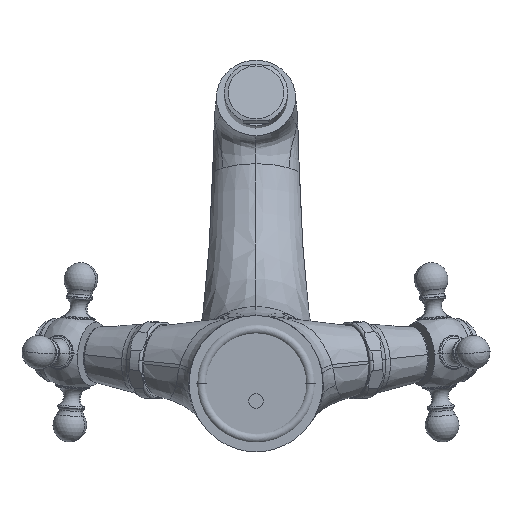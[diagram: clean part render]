
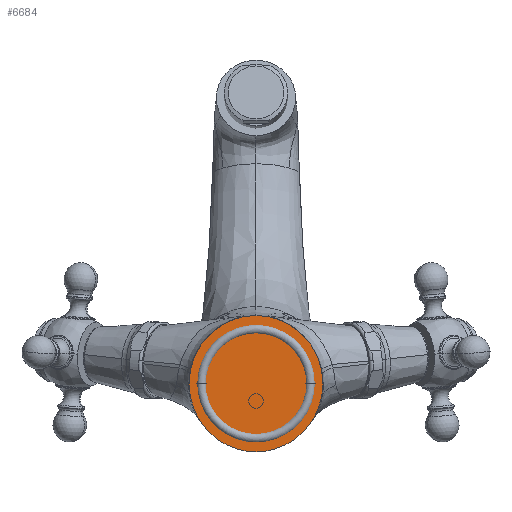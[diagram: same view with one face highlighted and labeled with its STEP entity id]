
A CAD part, front view. The second image highlights one B-rep face of the part: STEP entity #6684.
In plain terms, the highlighted planar face has unit normal (0, -1, 0).
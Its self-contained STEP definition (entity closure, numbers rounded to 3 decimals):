
#755=CARTESIAN_POINT('',(24.797,0.,20.893));
#756=CARTESIAN_POINT('',(24.602,0.,19.861));
#757=CARTESIAN_POINT('',(24.089,0.,17.819));
#758=CARTESIAN_POINT('',(22.958,0.,14.876));
#759=CARTESIAN_POINT('',(21.482,0.,12.097));
#760=CARTESIAN_POINT('',(20.284,0.,10.379));
#761=CARTESIAN_POINT('',(19.636,0.,9.562));
#778=CARTESIAN_POINT('',(0.,0.,0.));
#780=CARTESIAN_POINT('',(19.636,0.,9.562));
#781=CARTESIAN_POINT('',(19.341,0.,9.19));
#782=CARTESIAN_POINT('',(18.732,0.,8.463));
#783=CARTESIAN_POINT('',(17.759,0.,7.427));
#784=CARTESIAN_POINT('',(16.732,0.,6.447));
#785=CARTESIAN_POINT('',(15.293,0.,5.221));
#786=CARTESIAN_POINT('',(13.372,0.,3.845));
#787=CARTESIAN_POINT('',(11.314,0.,2.695));
#788=CARTESIAN_POINT('',(9.6,0.,1.919));
#789=CARTESIAN_POINT('',(7.846,0.,1.242));
#790=CARTESIAN_POINT('',(5.589,0.,0.584));
#791=CARTESIAN_POINT('',(2.812,0.,0.107));
#792=CARTESIAN_POINT('',(0.937,0.,0.));
#793=CARTESIAN_POINT('',(0.,0.,0.));
#883=CARTESIAN_POINT('',(-19.636,0.,9.562));
#884=CARTESIAN_POINT('',(-19.341,0.,9.19));
#885=CARTESIAN_POINT('',(-18.732,0.,8.463));
#886=CARTESIAN_POINT('',(-17.759,0.,7.427));
#887=CARTESIAN_POINT('',(-16.732,0.,6.447));
#888=CARTESIAN_POINT('',(-15.293,0.,5.221));
#889=CARTESIAN_POINT('',(-13.372,0.,3.845));
#890=CARTESIAN_POINT('',(-11.314,0.,2.695));
#891=CARTESIAN_POINT('',(-9.6,0.,1.919));
#892=CARTESIAN_POINT('',(-7.846,0.,1.242));
#893=CARTESIAN_POINT('',(-5.589,0.,0.584));
#894=CARTESIAN_POINT('',(-2.812,0.,0.107));
#895=CARTESIAN_POINT('',(-0.937,0.,0.));
#896=CARTESIAN_POINT('',(0.,0.,0.));
#1032=CARTESIAN_POINT('',(-24.797,0.,20.893));
#1033=CARTESIAN_POINT('',(-24.602,0.,19.861));
#1034=CARTESIAN_POINT('',(-24.089,0.,17.819));
#1035=CARTESIAN_POINT('',(-22.958,0.,14.876));
#1036=CARTESIAN_POINT('',(-21.482,0.,12.097));
#1037=CARTESIAN_POINT('',(-20.284,0.,10.379));
#1038=CARTESIAN_POINT('',(-19.636,0.,9.562));
#1073=CARTESIAN_POINT('',(0.,0.,51.5));
#1074=CARTESIAN_POINT('',(-1.852,0.,51.5));
#1075=CARTESIAN_POINT('',(-5.556,0.,51.082));
#1076=CARTESIAN_POINT('',(-12.609,0.,48.621));
#1077=CARTESIAN_POINT('',(-20.104,0.,42.69));
#1078=CARTESIAN_POINT('',(-25.265,0.,32.339));
#1079=CARTESIAN_POINT('',(-25.496,0.,24.603));
#1080=CARTESIAN_POINT('',(-24.797,0.,20.893));
#1673=CARTESIAN_POINT('',(0.,0.,51.5));
#1674=CARTESIAN_POINT('',(1.852,0.,51.5));
#1675=CARTESIAN_POINT('',(5.556,0.,51.082));
#1676=CARTESIAN_POINT('',(12.609,0.,48.621));
#1677=CARTESIAN_POINT('',(20.104,0.,42.69));
#1678=CARTESIAN_POINT('',(25.265,0.,32.339));
#1679=CARTESIAN_POINT('',(25.496,0.,24.603));
#1680=CARTESIAN_POINT('',(24.797,0.,20.893));
#1682=CARTESIAN_POINT('',(0.,0.,51.5));
#2489=VERTEX_POINT('',#755);
#2490=VERTEX_POINT('',#761);
#2550=VERTEX_POINT('',#1032);
#2551=VERTEX_POINT('',#1038);
#2579=VERTEX_POINT('',#778);
#2580=VERTEX_POINT('',#1682);
#6670=CARTESIAN_POINT('',(31.77,0.,106.781));
#6671=DIRECTION('',(0.,1.,0.));
#6672=DIRECTION('',(0.,0.,-1.));
#6673=AXIS2_PLACEMENT_3D('',#6670,#6671,#6672);
#6674=PLANE('',#6673);
#6675=ORIENTED_EDGE('',*,*,#4625,.T.);
#6676=ORIENTED_EDGE('',*,*,#4818,.F.);
#6677=ORIENTED_EDGE('',*,*,#5221,.F.);
#6678=ORIENTED_EDGE('',*,*,#5431,.F.);
#6680=ORIENTED_EDGE('',*,*,#6679,.T.);
#6681=ORIENTED_EDGE('',*,*,#4445,.T.);
#6682=EDGE_LOOP('',(#6675,#6676,#6677,#6678,#6680,#6681));
#6683=FACE_OUTER_BOUND('',#6682,.F.);
#6684=ADVANCED_FACE('',(#6683),#6674,.F.);
#762=B_SPLINE_CURVE_WITH_KNOTS('',3,(#755,#756,#757,#758,#759,#760,#761),
.UNSPECIFIED.,.F.,.F.,(4,1,1,1,4),(0.,0.25,0.5,0.75,1.),
.UNSPECIFIED.);
#794=B_SPLINE_CURVE_WITH_KNOTS('',3,(#780,#781,#782,#783,#784,#785,#786,#787,
#788,#789,#790,#791,#792,#793),.UNSPECIFIED.,.F.,.F.,(4,1,1,1,1,1,1,1,1,1,1,4),(
0.,0.063,0.125,0.188,0.25,0.375,0.5,0.563,0.625,0.75,
0.875,1.),.UNSPECIFIED.);
#897=B_SPLINE_CURVE_WITH_KNOTS('',3,(#883,#884,#885,#886,#887,#888,#889,#890,
#891,#892,#893,#894,#895,#896),.UNSPECIFIED.,.F.,.F.,(4,1,1,1,1,1,1,1,1,1,1,4),(
0.,0.063,0.125,0.188,0.25,0.375,0.5,0.563,0.625,0.75,
0.875,1.),.UNSPECIFIED.);
#1039=B_SPLINE_CURVE_WITH_KNOTS('',3,(#1032,#1033,#1034,#1035,#1036,#1037,
#1038),.UNSPECIFIED.,.F.,.F.,(4,1,1,1,4),(0.,0.25,0.5,0.75,1.),
.UNSPECIFIED.);
#1081=B_SPLINE_CURVE_WITH_KNOTS('',3,(#1073,#1074,#1075,#1076,#1077,#1078,#1079,
#1080),.UNSPECIFIED.,.F.,.F.,(4,1,1,1,1,4),(0.,0.125,0.25,0.5,0.75,
1.),.UNSPECIFIED.);
#1681=B_SPLINE_CURVE_WITH_KNOTS('',3,(#1673,#1674,#1675,#1676,#1677,#1678,#1679,
#1680),.UNSPECIFIED.,.F.,.F.,(4,1,1,1,1,4),(0.,0.125,0.25,0.5,0.75,
1.),.UNSPECIFIED.);
#4445=EDGE_CURVE('',#2489,#2490,#762,.T.);
#4625=EDGE_CURVE('',#2490,#2579,#794,.T.);
#4818=EDGE_CURVE('',#2551,#2579,#897,.T.);
#5221=EDGE_CURVE('',#2550,#2551,#1039,.T.);
#5431=EDGE_CURVE('',#2580,#2550,#1081,.T.);
#6679=EDGE_CURVE('',#2580,#2489,#1681,.T.);
